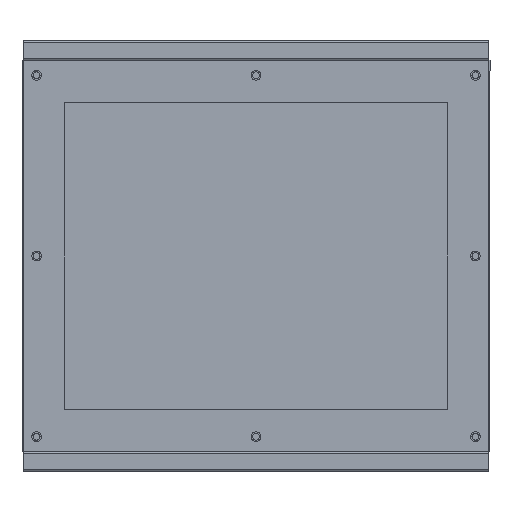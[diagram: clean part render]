
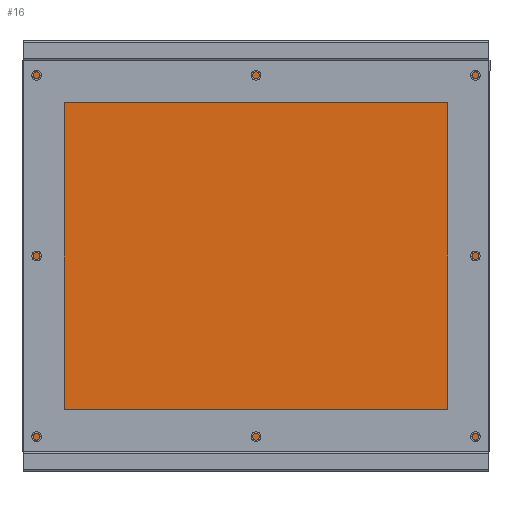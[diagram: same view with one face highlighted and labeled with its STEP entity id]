
A CAD part, front view. The second image highlights one B-rep face of the part: STEP entity #16.
In plain terms, the highlighted planar face has unit normal (0, -1, 0).
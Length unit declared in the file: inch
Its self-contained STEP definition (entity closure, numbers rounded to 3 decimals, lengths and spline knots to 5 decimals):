
#16 = ADVANCED_FACE ( 'NONE', ( #2534 ), #590, .T. ) ;
#580 = DIRECTION ( 'NONE',  ( 0., -1., 0. ) ) ;
#581 = DIRECTION ( 'NONE',  ( 0., 0., -1. ) ) ;
#590 = PLANE ( 'NONE',  #3035 ) ;
#593 = CARTESIAN_POINT ( 'NONE',  ( 17.87, 0., -14.87 ) ) ;
#1313 = VERTEX_POINT ( 'NONE', #1643 ) ;
#1557 = CARTESIAN_POINT ( 'NONE',  ( -17.87, 0., -14.87 ) ) ;
#1597 = CARTESIAN_POINT ( 'NONE',  ( 17.87, 0., -14.87 ) ) ;
#1643 = CARTESIAN_POINT ( 'NONE',  ( 17.87, 0., 14.87 ) ) ;
#1716 = CARTESIAN_POINT ( 'NONE',  ( -17.87, 0., 14.87 ) ) ;
#1833 = VERTEX_POINT ( 'NONE', #1716 ) ;
#1900 = VERTEX_POINT ( 'NONE', #1597 ) ;
#1946 = VERTEX_POINT ( 'NONE', #1557 ) ;
#2054 = EDGE_LOOP ( 'NONE', ( #5101, #5100, #5092, #5091 ) ) ;
#2534 = FACE_OUTER_BOUND ( 'NONE', #2054, .T. ) ;
#3035 = AXIS2_PLACEMENT_3D ( 'NONE', #593, #580, #581 ) ;
#3108 = CARTESIAN_POINT ( 'NONE',  ( -17.87, 0., 14.87 ) ) ;
#3112 = DIRECTION ( 'NONE',  ( 1., 0., 0. ) ) ;
#3341 = DIRECTION ( 'NONE',  ( 0., 0., -1. ) ) ;
#3342 = CARTESIAN_POINT ( 'NONE',  ( 17.87, 0., 14.87 ) ) ;
#3409 = DIRECTION ( 'NONE',  ( 0., 0., 1. ) ) ;
#3411 = CARTESIAN_POINT ( 'NONE',  ( -17.87, 0., 14.87 ) ) ;
#3528 = DIRECTION ( 'NONE',  ( -1., 0., 0. ) ) ;
#3529 = CARTESIAN_POINT ( 'NONE',  ( -17.87, 0., -14.87 ) ) ;
#4443 = EDGE_CURVE ( 'NONE', #1900, #1946, #5885, .T. ) ;
#4466 = EDGE_CURVE ( 'NONE', #1833, #1313, #5897, .T. ) ;
#4482 = EDGE_CURVE ( 'NONE', #1313, #1900, #5910, .T. ) ;
#4486 = EDGE_CURVE ( 'NONE', #1946, #1833, #5913, .T. ) ;
#5091 = ORIENTED_EDGE ( 'NONE', *, *, #4443, .F. ) ;
#5092 = ORIENTED_EDGE ( 'NONE', *, *, #4486, .F. ) ;
#5100 = ORIENTED_EDGE ( 'NONE', *, *, #4466, .F. ) ;
#5101 = ORIENTED_EDGE ( 'NONE', *, *, #4482, .F. ) ;
#5885 = LINE ( 'NONE', #3529, #5886 ) ;
#5886 = VECTOR ( 'NONE', #3528, 39.37008 ) ;
#5897 = LINE ( 'NONE', #3108, #5898 ) ;
#5898 = VECTOR ( 'NONE', #3112, 39.37008 ) ;
#5900 = VECTOR ( 'NONE', #3341, 39.37008 ) ;
#5910 = LINE ( 'NONE', #3342, #5900 ) ;
#5913 = LINE ( 'NONE', #3411, #5914 ) ;
#5914 = VECTOR ( 'NONE', #3409, 39.37008 ) ;
